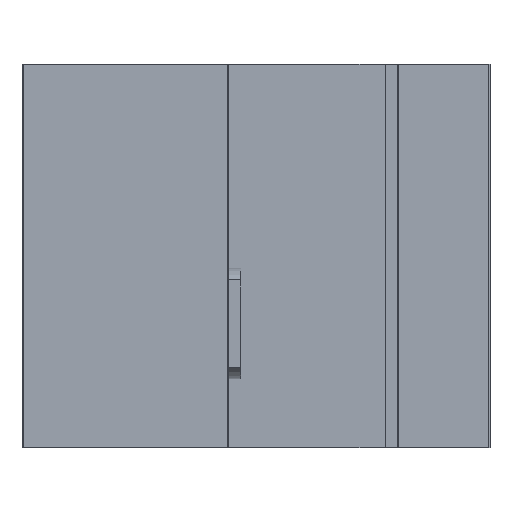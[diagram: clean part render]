
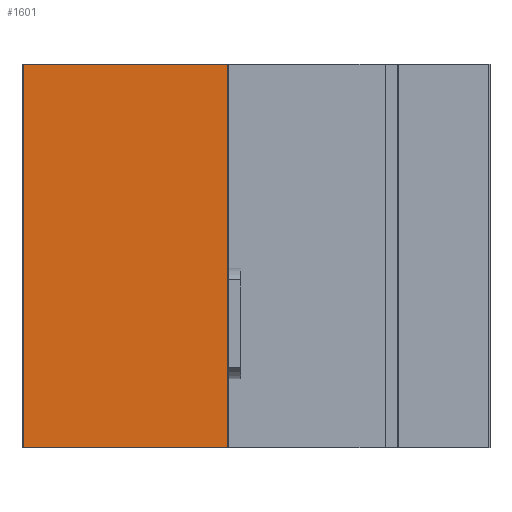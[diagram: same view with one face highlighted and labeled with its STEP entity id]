
A CAD part, front view. The second image highlights one B-rep face of the part: STEP entity #1601.
In plain terms, the highlighted planar face has unit normal (0, -1, 0).
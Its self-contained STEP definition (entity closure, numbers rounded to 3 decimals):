
#849 = VERTEX_POINT( '', #2021 );
#965 = EDGE_CURVE( '', #1191, #1213, #2152, .T. );
#1191 = VERTEX_POINT( '', #2411 );
#1213 = VERTEX_POINT( '', #2437 );
#1241 = EDGE_CURVE( '', #849, #1191, #2471, .T. );
#1497 = EDGE_CURVE( '', #1691, #1213, #2757, .T. );
#1533 = EDGE_CURVE( '', #849, #1691, #2795, .T. );
#1601 = ADVANCED_FACE( '', ( #2871 ), #2872, .T. );
#1691 = VERTEX_POINT( '', #2976 );
#2021 = CARTESIAN_POINT( '', ( -25.7, 0., 0. ) );
#2152 = LINE( '', #3602, #3603 );
#2411 = CARTESIAN_POINT( '', ( -25.7, 0., -34. ) );
#2437 = CARTESIAN_POINT( '', ( -7.6, 0., -34. ) );
#2471 = LINE( '', #4026, #4027 );
#2757 = LINE( '', #4411, #4412 );
#2795 = LINE( '', #4464, #4465 );
#2871 = FACE_OUTER_BOUND( '', #4565, .T. );
#2872 = PLANE( '', #4566 );
#2976 = CARTESIAN_POINT( '', ( -7.6, 0., 0. ) );
#3602 = CARTESIAN_POINT( '', ( -25.7, 0., -34. ) );
#3603 = VECTOR( '', #5203, 1. );
#4026 = CARTESIAN_POINT( '', ( -25.7, 0., 0. ) );
#4027 = VECTOR( '', #5597, 1. );
#4411 = CARTESIAN_POINT( '', ( -7.6, 0., 0. ) );
#4412 = VECTOR( '', #5904, 1. );
#4464 = CARTESIAN_POINT( '', ( -25.7, 0., 0. ) );
#4465 = VECTOR( '', #5935, 1. );
#4565 = EDGE_LOOP( '', ( #6016, #6017, #6018, #6019 ) );
#4566 = AXIS2_PLACEMENT_3D( '', #6020, #6021, #6022 );
#5203 = DIRECTION( '', ( 1., 0., 0. ) );
#5597 = DIRECTION( '', ( 0., 0., -1. ) );
#5904 = DIRECTION( '', ( 0., 0., -1. ) );
#5935 = DIRECTION( '', ( 1., 0., 0. ) );
#6016 = ORIENTED_EDGE( '', *, *, #965, .T. );
#6017 = ORIENTED_EDGE( '', *, *, #1497, .F. );
#6018 = ORIENTED_EDGE( '', *, *, #1533, .F. );
#6019 = ORIENTED_EDGE( '', *, *, #1241, .T. );
#6020 = CARTESIAN_POINT( '', ( -25.7, 0., 0. ) );
#6021 = DIRECTION( '', ( 0., -1., 0. ) );
#6022 = DIRECTION( '', ( -1., 0., 0. ) );
